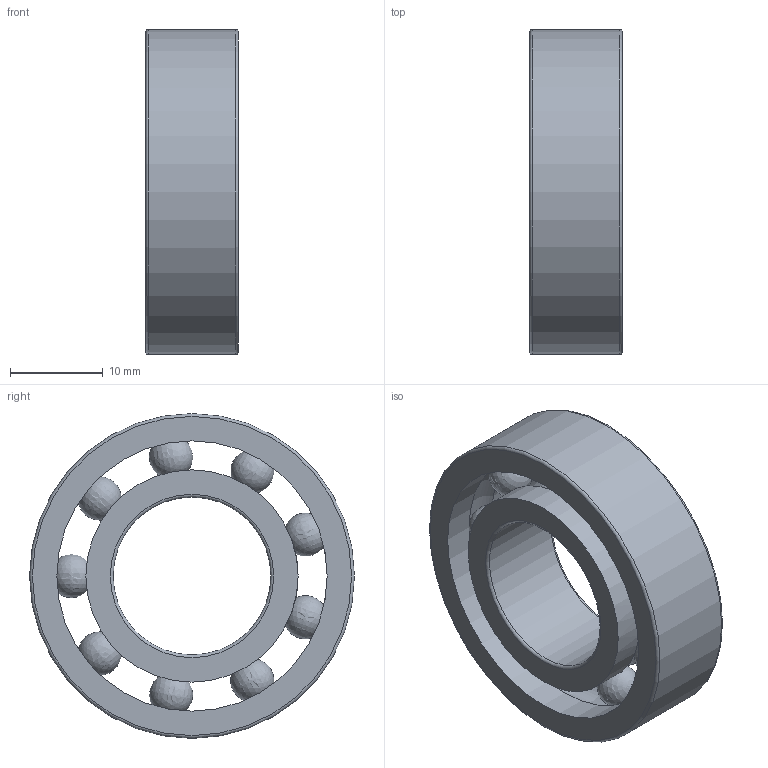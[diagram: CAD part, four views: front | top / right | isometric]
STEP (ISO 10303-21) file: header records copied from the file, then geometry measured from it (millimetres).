
FILE_DESCRIPTION(/* description */ ('깊은 그루브 볼 베어링'),/* implementation_level */ '2;1');
FILE_NAME(/* name */ '',/* time_stamp */ '2026-05-29T16:36:28+09:00',/* author */ ('jhkim'),/* organization */ (''),/* preprocessor_version */ 'ST-DEVELOPER v20.1',/* originating_system */ 'Autodesk Inventor 2027',/* authorisation */ '');
FILE_SCHEMA (('AUTOMOTIVE_DESIGN { 1 0 10303 214 3 1 1 }'));
Length unit declared in the file: millimetre
Products named in the file (1): 깊은 홈 볼 베어링 
6003
Bounding box: 10 x 35 x 35 mm (x, y, z)
Volume: 4965.3 mm3; surface area: 4875.4 mm2
Topology: 11 solids, 11 shells, 41 faces, 111 edges, 74 vertices
Faces by surface type: torus 22, sphere 9, cylinder 6, plane 4
Full cylindrical faces by diameter (mm): 17 x1, 22.868 x2, 29.132 x2, 35 x1
Entity records: 1555 total; most frequent: DIRECTION 300, CARTESIAN_POINT 263, ORIENTED_EDGE 222, AXIS2_PLACEMENT_3D 147, EDGE_CURVE 111, VERTEX_POINT 110, CIRCLE 105, EDGE_LOOP 63
